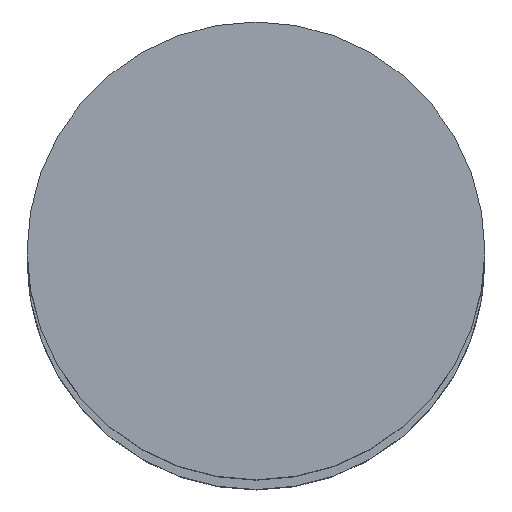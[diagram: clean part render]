
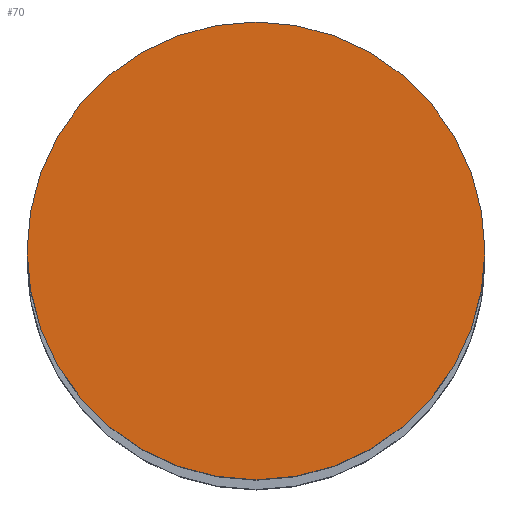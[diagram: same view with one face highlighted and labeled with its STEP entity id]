
A CAD part, top view. The second image highlights one B-rep face of the part: STEP entity #70.
In plain terms, the highlighted planar face has unit normal (0, 0, 1).
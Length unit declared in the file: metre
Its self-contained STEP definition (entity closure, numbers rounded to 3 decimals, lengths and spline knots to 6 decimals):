
#70=ADVANCED_FACE('25:217',(#146),#147,.T.);
#146=FACE_OUTER_BOUND('',#235,.T.);
#147=PLANE('',#236);
#235=EDGE_LOOP('',(#345,#346));
#236=AXIS2_PLACEMENT_3D('',#347,#348,#349);
#345=ORIENTED_EDGE('',*,*,#511,.F.);
#346=ORIENTED_EDGE('',*,*,#512,.F.);
#347=CARTESIAN_POINT('',(0.0,0.0,3.044));
#348=DIRECTION('',(0.0,0.0,1.0));
#349=DIRECTION('',(1.0,0.0,0.0));
#511=EDGE_CURVE('',#608,#609,#610,.F.);
#512=EDGE_CURVE('',#609,#608,#611,.F.);
#608=VERTEX_POINT('',#739);
#609=VERTEX_POINT('',#740);
#610=CIRCLE('',#741,0.0155);
#611=CIRCLE('',#742,0.0155);
#739=CARTESIAN_POINT('',(-0.015592,0.000095,3.044));
#740=CARTESIAN_POINT('',(0.015408,0.000095,3.044));
#741=AXIS2_PLACEMENT_3D('',#863,#864,#865);
#742=AXIS2_PLACEMENT_3D('',#866,#867,#868);
#863=CARTESIAN_POINT('',(-0.000092,0.000095,3.044));
#864=DIRECTION('',(0.0,0.0,1.0));
#865=DIRECTION('',(1.0,0.0,0.0));
#866=CARTESIAN_POINT('',(-0.000092,0.000095,3.044));
#867=DIRECTION('',(0.0,0.0,1.0));
#868=DIRECTION('',(1.0,0.0,0.0));
